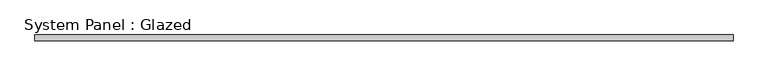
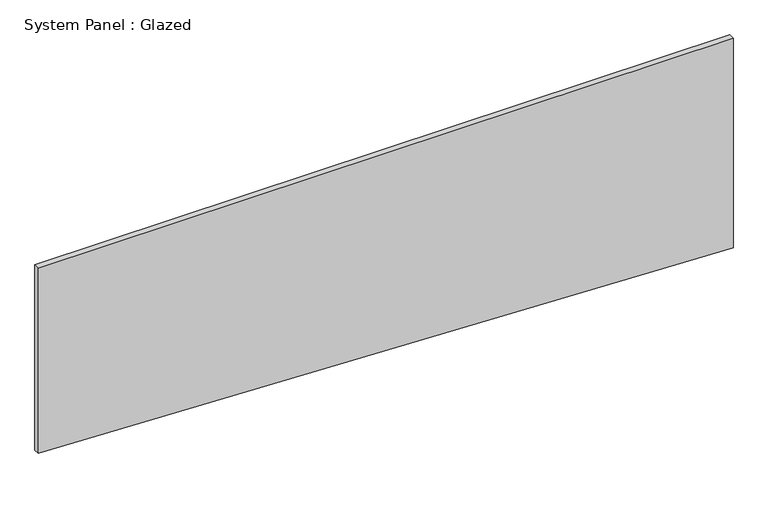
"""IFC4 building model written with IfcOpenShell, lengths in millimetres: plate geometry, System Panel : Glazed."""

from ifc_helpers import new_model, si_unit, frame, origin, place, context, project, spatial, polyline, outline, extrude, source, transform, mapped, element, save


def system_panel_glazed_7171d723(model_context):
    return source(origin(), model_context, "Body", "SweptSolid", [
        extrude(outline(polyline([(111.463807, -1504.95), (0.0, 1504.95), (958.9534763, 1504.95), (958.9534763, -1504.95), (111.463807, -1504.95)])), frame((0.0, 19.05, 0.0), z_axis=(0.0, 1.0, 0.0), x_axis=(0.0, 0.0, 1.0)), (0.0, 0.0, 1.0), 25.4),
    ])


if __name__ == "__main__":
    model = new_model("IFC4")
    model_context = context("Model", 3, world=origin())
    ifc_project = project(units=[si_unit("LENGTHUNIT", "METRE", prefix="MILLI")], contexts=[model_context])
    site = spatial("IfcSite", under=ifc_project)
    building = spatial("IfcBuilding", under=site)
    placement = place(None, origin())
    system_panel_glazed_shape = system_panel_glazed_7171d723(model_context)
    element("IfcPlate", 1, ObjectType="System Panel : Glazed", at=placement, inside=building, context=model_context, shape_type="MappedRepresentation", body=[
        mapped(system_panel_glazed_shape, transform((0.0, 0.0, 0.0), x_axis=(1.0, 0.0, 0.0), y_axis=(0.0, 1.0, 0.0), z_axis=(0.0, 0.0, 1.0))),
    ])
    save(model, "model.ifc")
